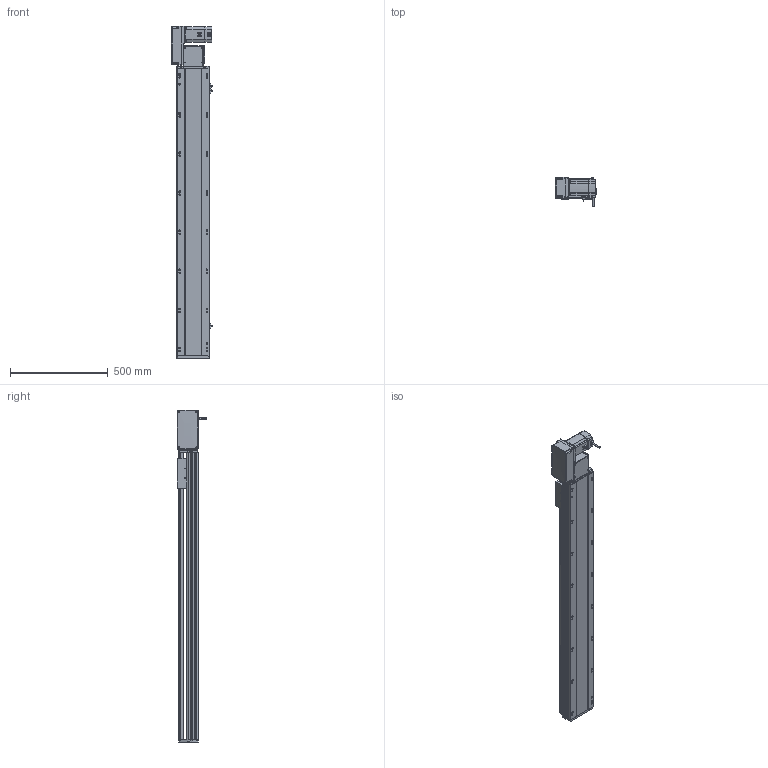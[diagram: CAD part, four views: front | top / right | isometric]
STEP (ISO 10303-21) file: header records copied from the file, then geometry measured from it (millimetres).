
FILE_DESCRIPTION (( 'STEP AP214' ), '1' );
FILE_NAME ('RTB17S-XX-1200-L-M75-C4.STEP', '2025-12-12T00:14:18', ( '' ), ( '' ), 'SwSTEP 2.0', 'SolidWorks 2018', '' );
FILE_SCHEMA (( 'AUTOMOTIVE_DESIGN' ));
Length unit declared in the file: millimetre
Products named in the file (15): 750W萇儂^RTB17S-XX-XX-L-M75-C4; RTB17S-L-001-耜醱啣^RTB17S-XX-XX-L-M75-C4; RTB22S-GY-005P^RTB17S-L-々湍釱蚾饜-750W_RTB17S-XX-XX-L-M75-C4; RTB22S-GY-017P^RTB17S-L-々湍釱蚾饜-750W_RTB17S-XX-XX-L-M75-C4; RTB22S-GY-018P^RTB17S-L-々湍釱蚾饜-750W_RTB17S-XX-XX-L-M75-C4; RTB17S-XX-1200-L-M75-C4; RTH13-BL-012覜茼え俋离^RTB17S-賑釱_RTB17S-XX-XX-L-M75-C4; RTB17S-L-004-賑釱^RTB17S-賑釱_RTB17S-XX-XX-L-M75-C4; RTB22S-GY-008-M75--萇儂啣^RTB17S-L-々湍釱蚾饜-750W_RTB17S-XX-XX-L-M75-C4; RTB17S-L-々湍釱蚾饜-750W^RTB17S-XX-XX-L-M75-C4; RTB17S-賑釱^RTB17S-XX-XX-L-M75-C4; EE672^RTB17S-XX-XX-L-M75-C4; RTB17-R-011菁釱^RTB17S-XX-XX-L-M75-C4; RTB17S-L-007奻裔^RTB17S-XX-XX-L-M75-C4; RMP17S-L-014-T20-P75--々湍釱^RTB17S-L-々湍釱蚾饜-750W_RTB17S-XX-XX-L-M75-C4
Assembly tree (17 placements, depth 3):
  RTB17S-XX-1200-L-M75-C4
    RTB17-R-011菁釱^RTB17S-XX-XX-L-M75-C4
    EE672^RTB17S-XX-XX-L-M75-C4  x3
    RTB17S-L-001-耜醱啣^RTB17S-XX-XX-L-M75-C4
    RTB17S-賑釱^RTB17S-XX-XX-L-M75-C4
      RTB17S-L-004-賑釱^RTB17S-賑釱_RTB17S-XX-XX-L-M75-C4
      RTH13-BL-012覜茼え俋离^RTB17S-賑釱_RTB17S-XX-XX-L-M75-C4
    RTB17S-L-007奻裔^RTB17S-XX-XX-L-M75-C4
    750W萇儂^RTB17S-XX-XX-L-M75-C4
    RTB17S-L-々湍釱蚾饜-750W^RTB17S-XX-XX-L-M75-C4
      RMP17S-L-014-T20-P75--々湍釱^RTB17S-L-々湍釱蚾饜-750W_RTB17S-XX-XX-L-M75-C4
      RTB22S-GY-005P^RTB17S-L-々湍釱蚾饜-750W_RTB17S-XX-XX-L-M75-C4
      RTB22S-GY-017P^RTB17S-L-々湍釱蚾饜-750W_RTB17S-XX-XX-L-M75-C4  x2
      RTB22S-GY-008-M75--萇儂啣^RTB17S-L-々湍釱蚾饜-750W_RTB17S-XX-XX-L-M75-C4
      RTB22S-GY-018P^RTB17S-L-々湍釱蚾饜-750W_RTB17S-XX-XX-L-M75-C4
Bounding box: 210.4 x 152.7 x 1699 mm (x, y, z)
Volume: 13453992 mm3; surface area: 2315685.6 mm2
Topology: 17 solids, 17 shells, 2105 faces, 5836 edges, 3770 vertices
Faces by surface type: plane 972, cylinder 717, bspline 294, cone 110, sphere 8, torus 4
Entity records: 58870 total; most frequent: CARTESIAN_POINT 17300, ORIENTED_EDGE 8516, DIRECTION 7952, EDGE_CURVE 4258, AXIS2_PLACEMENT_3D 2790, VERTEX_POINT 2774, VECTOR 2372, LINE 2372
